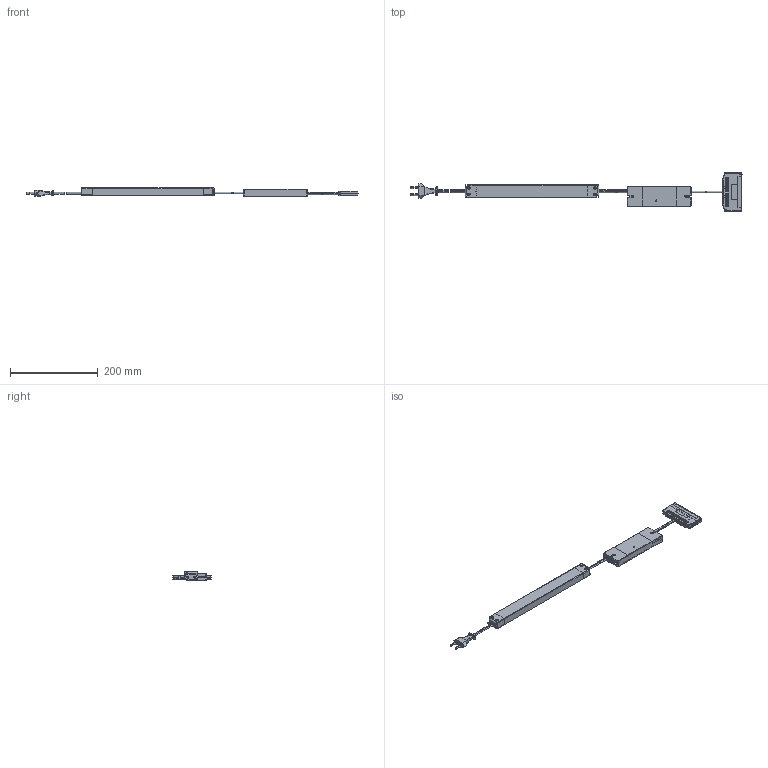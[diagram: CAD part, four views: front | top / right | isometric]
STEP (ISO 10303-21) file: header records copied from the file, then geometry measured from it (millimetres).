
FILE_DESCRIPTION (( 'STEP AP203' ), '1' );
FILE_NAME ('Erweiterungsset_12VDC_60W_24.STEP', '2024-12-02T09:41:20', ( '' ), ( '' ), 'SwSTEP 2.0', 'SolidWorks 2023', '' );
FILE_SCHEMA (( 'CONFIG_CONTROL_DESIGN' ));
Length unit declared in the file: millimetre
Products named in the file (13): Gehaeuse_9-fach_Verteiler_UT; Euroflachstecker_DAM_L=180mm; 9-fach_Verteiler_DMA; PCB_Funkempfaenger_9-fach_Verteiler; PCB_Funkempfaenger_9-fach_Verteiler_sw; Gehaeuse_9-fach_Verteiler_OT; 3110001_mit_Klebeband; 3903090; HAL60-12VF_S; Transducer MC33164_Beine kurz; 3903090_L=80mm_getr; Mini_Buchse_LED_sw_zum_Anloeten_ohne Führung; Erweiterungsset_12VDC_60W_24
Assembly tree (22 placements, depth 4):
  Erweiterungsset_12VDC_60W_24
    3110001_mit_Klebeband
    9-fach_Verteiler_DMA
      3903090_L=80mm_getr
      Gehaeuse_9-fach_Verteiler_OT
      PCB_Funkempfaenger_9-fach_Verteiler_sw
        PCB_Funkempfaenger_9-fach_Verteiler
        Transducer MC33164_Beine kurz  x3
        Mini_Buchse_LED_sw_zum_Anloeten_ohne Führung  x9
      Gehaeuse_9-fach_Verteiler_UT
    3903090
    HAL60-12VF_S
    Euroflachstecker_DAM_L=180mm
Bounding box: 755.73 x 86.62 x 18.7 mm (x, y, z)
Volume: 287227.1 mm3; surface area: 99590.9 mm2
Topology: 24 solids, 24 shells, 2198 faces, 5874 edges, 3755 vertices
Faces by surface type: plane 1490, cylinder 509, torus 129, bspline 41, sphere 29
Entity records: 51125 total; most frequent: CARTESIAN_POINT 11590, ORIENTED_EDGE 8154, DIRECTION 7440, EDGE_CURVE 4077, VECTOR 2936, LINE 2936, VERTEX_POINT 2602, AXIS2_PLACEMENT_3D 2252
